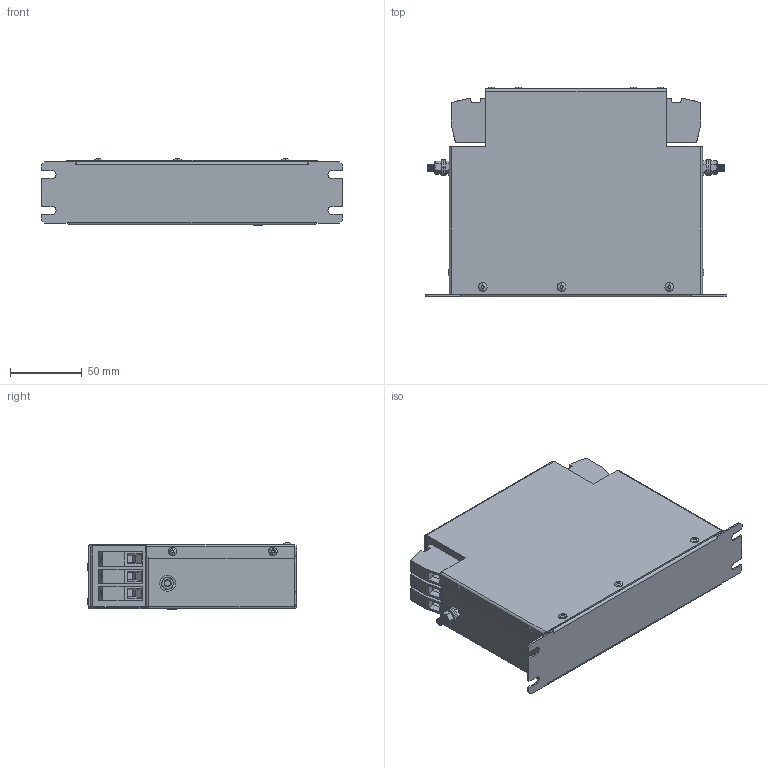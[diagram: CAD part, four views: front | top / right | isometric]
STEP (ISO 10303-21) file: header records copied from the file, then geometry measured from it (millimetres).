
FILE_DESCRIPTION (( 'STEP AP203' ), '1' );
FILE_NAME ('NF-CF-25 (C size).STEP', '2025-02-26T17:25:06', ( '' ), ( '' ), 'SwSTEP 2.0', 'SolidWorks 2017', '' );
FILE_SCHEMA (( 'CONFIG_CONTROL_DESIGN' ));
Length unit declared in the file: millimetre
Products named in the file (10): HDFK-10; NF-CF-25 (C size); M5x20 Earth post; M4 Hank; hex screw_am_B18.6.7M - M5 x 0.8 x 13 Indented HHMS --13S; NF-CF-25 (C lid); hex nut style 1_am_B18.2.4.1M - Hex nut, Style 1,  M5 x 0.8 --D-N; NF-CF-25 (C case); 3.5mm Rivet; flat washer narrow_am_B18.22M - Plain washer, 5 mm, narrow
Assembly tree (26 placements, depth 3):
  NF-CF-25 (C size)
    NF-CF-25 (C case)
    NF-CF-25 (C lid)
    M5x20 Earth post  x2
      flat washer narrow_am_B18.22M - Plain washer, 5 mm, narrow
      hex nut style 1_am_B18.2.4.1M - Hex nut, Style 1,  M5 x 0.8 --D-N
      hex screw_am_B18.6.7M - M5 x 0.8 x 13 Indented HHMS --13S
    3.5mm Rivet  x11
    HDFK-10  x6
    M4 Hank
Bounding box: 210 x 146 x 46.3 mm (x, y, z)
Volume: 133902.5 mm3; surface area: 185611.2 mm2
Topology: 34 solids, 34 shells, 1002 faces, 2324 edges, 1442 vertices
Faces by surface type: plane 522, cylinder 254, cone 204, torus 22
Entity records: 15670 total; most frequent: CARTESIAN_POINT 2542, DIRECTION 2540, ORIENTED_EDGE 2328, EDGE_CURVE 1164, AXIS2_PLACEMENT_3D 904, VECTOR 732, LINE 732, VERTEX_POINT 714
